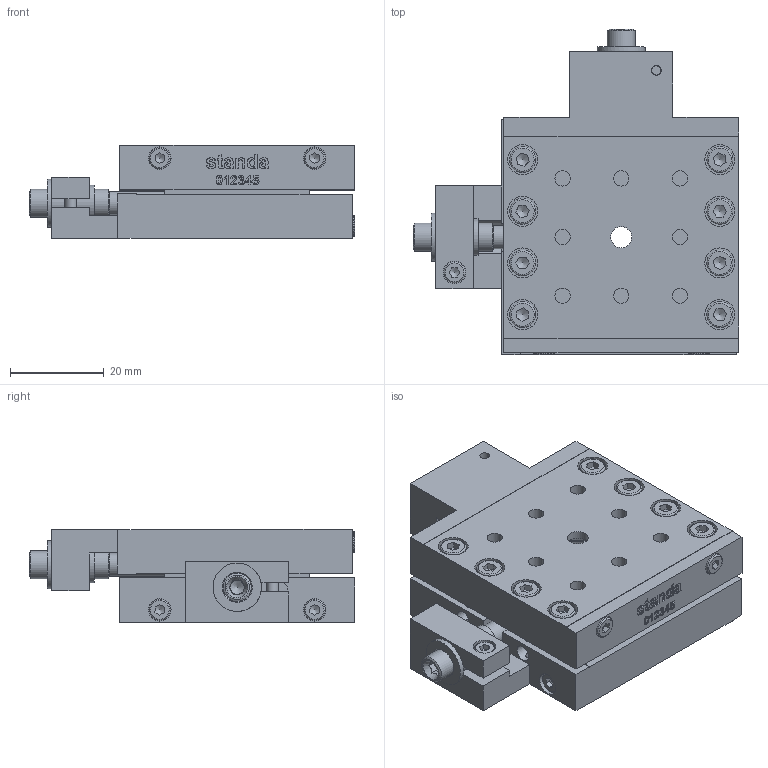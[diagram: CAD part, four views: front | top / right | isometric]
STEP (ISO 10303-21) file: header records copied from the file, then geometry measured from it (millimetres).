
FILE_DESCRIPTION((''),'2;1');
FILE_NAME('D:\Darius\Spec\37\7T264-10-9SH127-10\step\7T264-10-9SH127-10.stp','2013-06-11T10:06:49',('Darius.M'),(''),'Autodesk Inventor 2013','Autodesk Inventor 2013','');
FILE_SCHEMA(('AUTOMOTIVE_DESIGN { 1 0 10303 214 1 1 1 1 }'));
Length unit declared in the file: millimetre
Products named in the file (1): 7T264-10-9SH127-10-internetui
Bounding box: 69.26 x 69.26 x 20 mm (x, y, z)
Volume: 45947.4 mm3; surface area: 27897.8 mm2
Topology: 1 solids, 27 shells, 1083 faces, 2750 edges, 1816 vertices
Faces by surface type: plane 565, bspline 232, cylinder 176, cone 68, torus 42
Full cylindrical faces by diameter (mm): 1.25 x2, 1.567 x8, 2.013 x14, 2.5 x10, 2.8 x2, 3 x30, 3.242 x16, 3.4 x16, 3.5 x4, 4.5 x11, 4.8 x14, 5 x2, 5.5 x16, 6 x4, 6.4 x16, 7.8 x2, 10 x3, 10.3 x2
Entity records: 32465 total; most frequent: CARTESIAN_POINT 8928, ORIENTED_EDGE 4616, DIRECTION 3808, EDGE_CURVE 2308, VERTEX_POINT 1656, EDGE_LOOP 1566, AXIS2_PLACEMENT_3D 1288, VECTOR 1232
